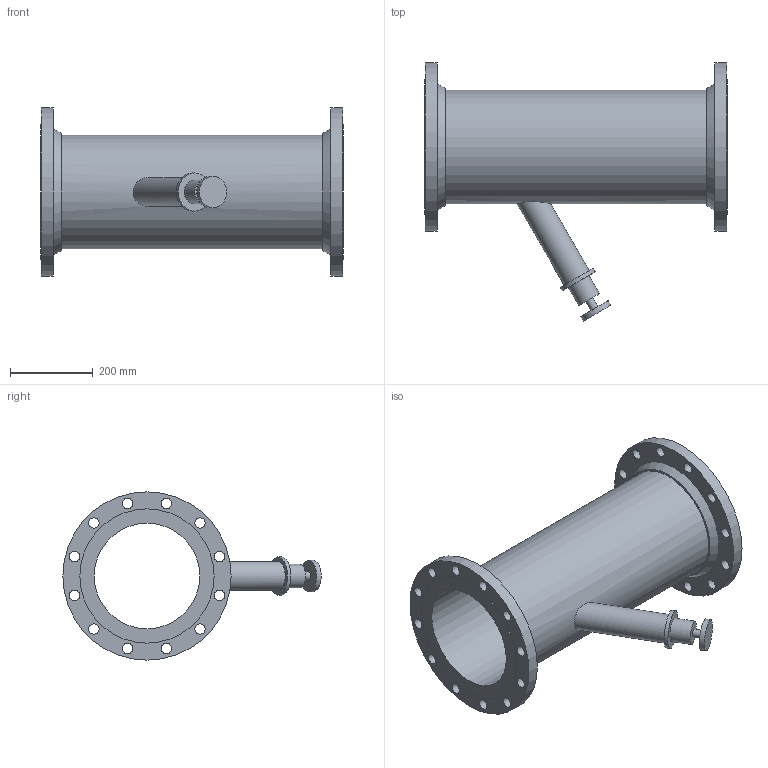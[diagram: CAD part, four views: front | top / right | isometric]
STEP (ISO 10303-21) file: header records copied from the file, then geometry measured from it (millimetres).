
FILE_DESCRIPTION(/* description */ ('VIC TA CIRCUIT BALANCING VALVE SERIES 788 (FLG)','CAx-IF Rec.Pracs.---Representation and Presentation of Product Manufacturing Information (PMI)---4.0---2014-10-13'),/* implementation_level */ '2;1');
FILE_NAME(/* name */ 'C:\Users\Vjadhav\AppData\Roaming\Autodesk\ApplicationPlugins\Back Up\Victaulic-IPS-TA Balancing Valve Series 788\Victaulic-IPS-TA Balancing Valve Series 788_10 (250).stp',/* time_stamp */ '2020-03-19T19:19:50+06:00',/* author */ ('cps_temp'),/* organization */ ('Victaulic'),/* preprocessor_version */ 'ST-DEVELOPER v17.2',/* originating_system */ 'Autodesk Inventor 2019',/* authorisation */ '');
FILE_SCHEMA (('AP242_MANAGED_MODEL_BASED_3D_ENGINEERING_MIM_LF { 1 0 10303 442 1 1 4 }'));
Length unit declared in the file: inch
Products named in the file (1): 788-10.0
Bounding box: 730 x 623.06 x 405.89 mm (x, y, z)
Volume: 10803448.1 mm3; surface area: 1627151 mm2
Topology: 1 solids, 1 shells, 50 faces, 139 edges, 101 vertices
Faces by surface type: cylinder 35, plane 13, cone 2
Full cylindrical faces by diameter (mm): 19.05 x1, 25.4 x24, 57.15 x1, 69.85 x1, 76.2 x1, 92.05 x1, 254.508 x1, 273.05 x1, 323.85 x2, 405.892 x2
Entity records: 2044 total; most frequent: CARTESIAN_POINT 375, DIRECTION 362, ORIENTED_EDGE 278, AXIS2_PLACEMENT_3D 162, EDGE_CURVE 139, EDGE_LOOP 110, VERTEX_POINT 101, CIRCLE 98
